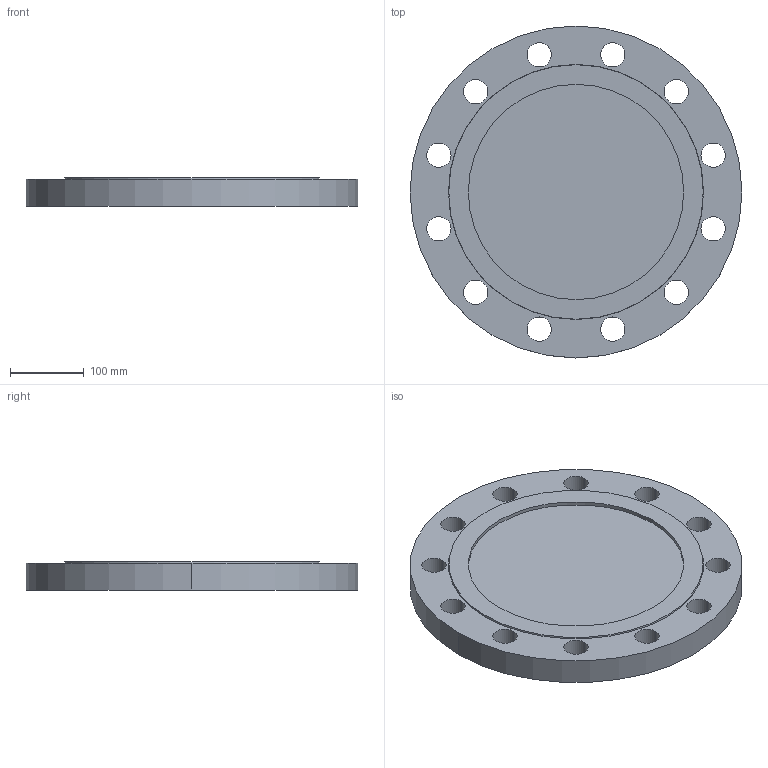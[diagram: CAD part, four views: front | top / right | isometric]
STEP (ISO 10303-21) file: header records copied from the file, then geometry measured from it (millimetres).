
FILE_DESCRIPTION (( 'STEP AP214' ), '1' );
FILE_NAME ('PN40 DN250 Type 05 - Type G Face.STEP', '2019-01-05T16:14:12', ( '' ), ( '' ), 'SwSTEP 2.0', 'SolidWorks 2019', '' );
FILE_SCHEMA (( 'AUTOMOTIVE_DESIGN' ));
Length unit declared in the file: millimetre
Products named in the file (1): PN40 DN250 Type 05 - Type G Face
Bounding box: 450 x 450 x 38 mm (x, y, z)
Volume: 5208579.2 mm3; surface area: 399646.9 mm2
Topology: 1 solids, 1 shells, 34 faces, 90 edges, 60 vertices
Faces by surface type: cylinder 28, plane 4, cone 2
Entity records: 1176 total; most frequent: DIRECTION 220, CARTESIAN_POINT 185, ORIENTED_EDGE 180, AXIS2_PLACEMENT_3D 95, EDGE_CURVE 90, CIRCLE 60, VERTEX_POINT 60, EDGE_LOOP 60
